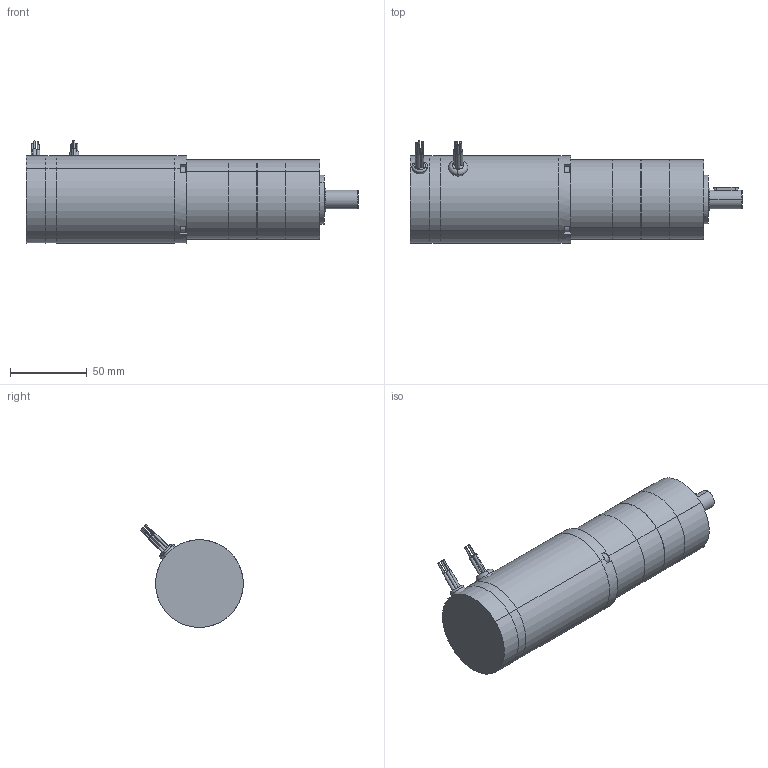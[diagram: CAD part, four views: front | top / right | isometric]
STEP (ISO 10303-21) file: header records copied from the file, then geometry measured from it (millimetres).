
FILE_DESCRIPTION (( 'STEP AP203' ), '1' );
FILE_NAME ('bl58412gp2.step', '2018-12-07T18:57:59', ( '' ), ( '' ), 'SwSTEP 2.0', 'SolidWorks 2017', '' );
FILE_SCHEMA (( 'CONFIG_CONTROL_DESIGN' ));
Length unit declared in the file: inch
Products named in the file (1): bl58412gp2
Bounding box: 216.27 x 66.83 x 67 mm (x, y, z)
Volume: 454769.5 mm3; surface area: 85673.4 mm2
Topology: 23 solids, 23 shells, 382 faces, 808 edges, 510 vertices
Faces by surface type: cylinder 158, plane 155, cone 65, torus 4
Entity records: 10398 total; most frequent: DIRECTION 1935, CARTESIAN_POINT 1813, ORIENTED_EDGE 1584, EDGE_CURVE 792, AXIS2_PLACEMENT_3D 766, VERTEX_POINT 510, EDGE_LOOP 456, LINE 403
